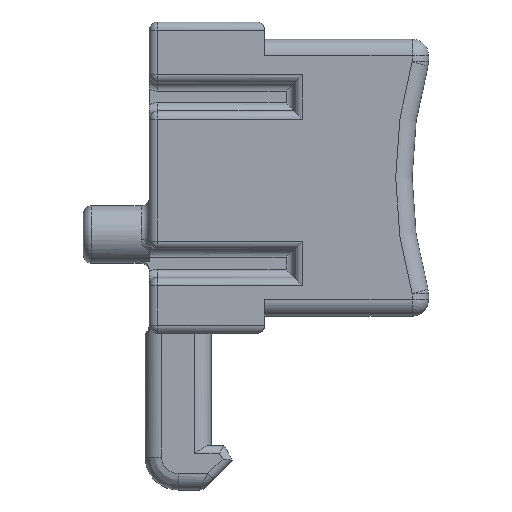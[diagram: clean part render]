
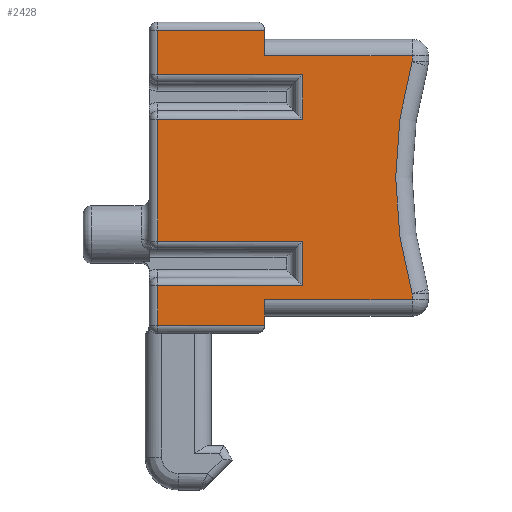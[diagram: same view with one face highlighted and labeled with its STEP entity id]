
A CAD part, front view. The second image highlights one B-rep face of the part: STEP entity #2428.
In plain terms, the highlighted planar face has unit normal (0, -1, 0).
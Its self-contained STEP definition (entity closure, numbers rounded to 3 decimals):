
#71=PLANE('',#2745);
#167=LINE('',#4290,#348);
#170=LINE('',#4301,#351);
#173=LINE('',#4313,#354);
#176=LINE('',#4327,#357);
#178=LINE('',#4338,#359);
#181=LINE('',#4350,#362);
#185=LINE('',#4363,#366);
#188=LINE('',#4383,#369);
#192=LINE('',#4404,#373);
#193=LINE('',#4406,#374);
#196=LINE('',#4410,#377);
#220=LINE('',#4464,#401);
#249=LINE('',#4619,#430);
#252=LINE('',#4626,#433);
#254=LINE('',#4633,#435);
#257=LINE('',#4638,#438);
#260=LINE('',#4643,#441);
#348=VECTOR('',#3094,10.);
#351=VECTOR('',#3109,10.);
#354=VECTOR('',#3124,10.);
#357=VECTOR('',#3141,10.);
#359=VECTOR('',#3157,10.);
#362=VECTOR('',#3172,10.);
#366=VECTOR('',#3188,10.);
#369=VECTOR('',#3209,10.);
#373=VECTOR('',#3237,10.);
#374=VECTOR('',#3240,10.);
#377=VECTOR('',#3245,10.);
#401=VECTOR('',#3305,10.);
#430=VECTOR('',#3476,10.);
#433=VECTOR('',#3483,10.);
#435=VECTOR('',#3495,10.);
#438=VECTOR('',#3502,10.);
#441=VECTOR('',#3509,10.);
#690=FACE_OUTER_BOUND('',#844,.T.);
#844=EDGE_LOOP('',(#2188,#2189,#2190,#2191,#2192,#2193,#2194,#2195,#2196,
#2197,#2198,#2199,#2200,#2201,#2202,#2203,#2204,#2205));
#1001=CIRCLE('',#2739,25.305);
#1120=VERTEX_POINT('',#4261);
#1123=VERTEX_POINT('',#4269);
#1127=VERTEX_POINT('',#4294);
#1130=VERTEX_POINT('',#4312);
#1134=VERTEX_POINT('',#4326);
#1136=VERTEX_POINT('',#4331);
#1138=VERTEX_POINT('',#4341);
#1142=VERTEX_POINT('',#4362);
#1148=VERTEX_POINT('',#4376);
#1150=VERTEX_POINT('',#4382);
#1152=VERTEX_POINT('',#4387);
#1155=VERTEX_POINT('',#4397);
#1167=VERTEX_POINT('',#4463);
#1185=VERTEX_POINT('',#4548);
#1190=VERTEX_POINT('',#4564);
#1193=VERTEX_POINT('',#4571);
#1198=VERTEX_POINT('',#4587);
#1205=VERTEX_POINT('',#4622);
#1386=EDGE_CURVE('',#1120,#1123,#167,.T.);
#1392=EDGE_CURVE('',#1123,#1127,#170,.T.);
#1398=EDGE_CURVE('',#1127,#1130,#173,.T.);
#1405=EDGE_CURVE('',#1130,#1134,#176,.T.);
#1411=EDGE_CURVE('',#1134,#1136,#178,.T.);
#1417=EDGE_CURVE('',#1136,#1138,#181,.T.);
#1424=EDGE_CURVE('',#1138,#1142,#185,.T.);
#1433=EDGE_CURVE('',#1142,#1150,#188,.T.);
#1444=EDGE_CURVE('',#1150,#1155,#192,.T.);
#1445=EDGE_CURVE('',#1155,#1152,#193,.T.);
#1448=EDGE_CURVE('',#1152,#1148,#196,.T.);
#1477=EDGE_CURVE('',#1167,#1148,#220,.T.);
#1546=EDGE_CURVE('',#1193,#1198,#249,.T.);
#1550=EDGE_CURVE('',#1198,#1205,#252,.T.);
#1552=EDGE_CURVE('',#1190,#1193,#1001,.T.);
#1554=EDGE_CURVE('',#1185,#1190,#254,.T.);
#1557=EDGE_CURVE('',#1167,#1185,#257,.T.);
#1560=EDGE_CURVE('',#1120,#1205,#260,.T.);
#2188=ORIENTED_EDGE('',*,*,#1386,.F.);
#2189=ORIENTED_EDGE('',*,*,#1560,.T.);
#2190=ORIENTED_EDGE('',*,*,#1550,.F.);
#2191=ORIENTED_EDGE('',*,*,#1546,.F.);
#2192=ORIENTED_EDGE('',*,*,#1552,.F.);
#2193=ORIENTED_EDGE('',*,*,#1554,.F.);
#2194=ORIENTED_EDGE('',*,*,#1557,.F.);
#2195=ORIENTED_EDGE('',*,*,#1477,.T.);
#2196=ORIENTED_EDGE('',*,*,#1448,.F.);
#2197=ORIENTED_EDGE('',*,*,#1445,.F.);
#2198=ORIENTED_EDGE('',*,*,#1444,.F.);
#2199=ORIENTED_EDGE('',*,*,#1433,.F.);
#2200=ORIENTED_EDGE('',*,*,#1424,.F.);
#2201=ORIENTED_EDGE('',*,*,#1417,.F.);
#2202=ORIENTED_EDGE('',*,*,#1411,.F.);
#2203=ORIENTED_EDGE('',*,*,#1405,.F.);
#2204=ORIENTED_EDGE('',*,*,#1398,.F.);
#2205=ORIENTED_EDGE('',*,*,#1392,.F.);
#2428=ADVANCED_FACE('',(#690),#71,.F.);
#2739=AXIS2_PLACEMENT_3D('',#4630,#3489,#3490);
#2745=AXIS2_PLACEMENT_3D('',#4642,#3507,#3508);
#3094=DIRECTION('',(-1.,0.,0.));
#3109=DIRECTION('',(0.,0.,1.));
#3124=DIRECTION('',(1.,0.,0.));
#3141=DIRECTION('',(0.,0.,1.));
#3157=DIRECTION('',(-1.,0.,0.));
#3172=DIRECTION('',(0.,0.,1.));
#3188=DIRECTION('',(1.,0.,0.));
#3209=DIRECTION('',(0.,0.,1.));
#3237=DIRECTION('',(-1.,0.,0.));
#3240=DIRECTION('',(0.,0.,1.));
#3245=DIRECTION('',(1.,0.,0.));
#3305=DIRECTION('',(0.,0.,1.));
#3476=DIRECTION('',(0.,0.,-1.));
#3483=DIRECTION('',(-1.,0.,0.));
#3489=DIRECTION('center_axis',(0.,-1.,0.));
#3490=DIRECTION('ref_axis',(-1.,0.,0.));
#3495=DIRECTION('',(0.,0.,-1.));
#3502=DIRECTION('',(1.,0.,0.));
#3507=DIRECTION('center_axis',(0.,1.,0.));
#3508=DIRECTION('ref_axis',(0.,0.,1.));
#3509=DIRECTION('',(0.,0.,1.));
#4261=CARTESIAN_POINT('',(7.,-3.45,-5.5));
#4269=CARTESIAN_POINT('',(0.5,-3.45,-5.5));
#4290=CARTESIAN_POINT('',(7.738,-3.45,-5.5));
#4294=CARTESIAN_POINT('',(0.5,-3.45,-3.1));
#4301=CARTESIAN_POINT('',(0.5,-3.45,-1.275));
#4312=CARTESIAN_POINT('',(9.3,-3.45,-3.1));
#4313=CARTESIAN_POINT('',(4.238,-3.45,-3.1));
#4326=CARTESIAN_POINT('',(9.3,-3.45,-0.4));
#4327=CARTESIAN_POINT('',(9.3,-3.45,0.425));
#4331=CARTESIAN_POINT('',(0.5,-3.45,-0.4));
#4338=CARTESIAN_POINT('',(8.638,-3.45,-0.4));
#4341=CARTESIAN_POINT('',(0.5,-3.45,7.));
#4350=CARTESIAN_POINT('',(0.5,-3.45,-1.275));
#4362=CARTESIAN_POINT('',(9.3,-3.45,7.));
#4363=CARTESIAN_POINT('',(4.238,-3.45,7.));
#4376=CARTESIAN_POINT('',(7.,-3.45,12.4));
#4382=CARTESIAN_POINT('',(9.3,-3.45,9.7));
#4383=CARTESIAN_POINT('',(9.3,-3.45,5.475));
#4387=CARTESIAN_POINT('',(0.5,-3.45,12.4));
#4397=CARTESIAN_POINT('',(0.5,-3.45,9.7));
#4404=CARTESIAN_POINT('',(8.638,-3.45,9.7));
#4406=CARTESIAN_POINT('',(0.5,-3.45,-1.275));
#4410=CARTESIAN_POINT('',(4.238,-3.45,12.4));
#4463=CARTESIAN_POINT('',(7.,-3.45,10.85));
#4464=CARTESIAN_POINT('',(7.,-3.45,12.9));
#4548=CARTESIAN_POINT('',(15.95,-3.45,10.85));
#4564=CARTESIAN_POINT('',(15.95,-3.45,10.493));
#4571=CARTESIAN_POINT('',(15.95,-3.45,-3.593));
#4587=CARTESIAN_POINT('',(15.95,-3.45,-3.95));
#4619=CARTESIAN_POINT('',(15.95,-3.45,0.));
#4622=CARTESIAN_POINT('',(7.,-3.45,-3.95));
#4626=CARTESIAN_POINT('',(12.713,-3.45,-3.95));
#4630=CARTESIAN_POINT('Origin',(40.255,-3.45,3.45));
#4633=CARTESIAN_POINT('',(15.95,-3.45,7.65));
#4638=CARTESIAN_POINT('',(7.738,-3.45,10.85));
#4642=CARTESIAN_POINT('Origin',(8.475,-3.45,3.45));
#4643=CARTESIAN_POINT('',(7.,-3.45,-4.95));
